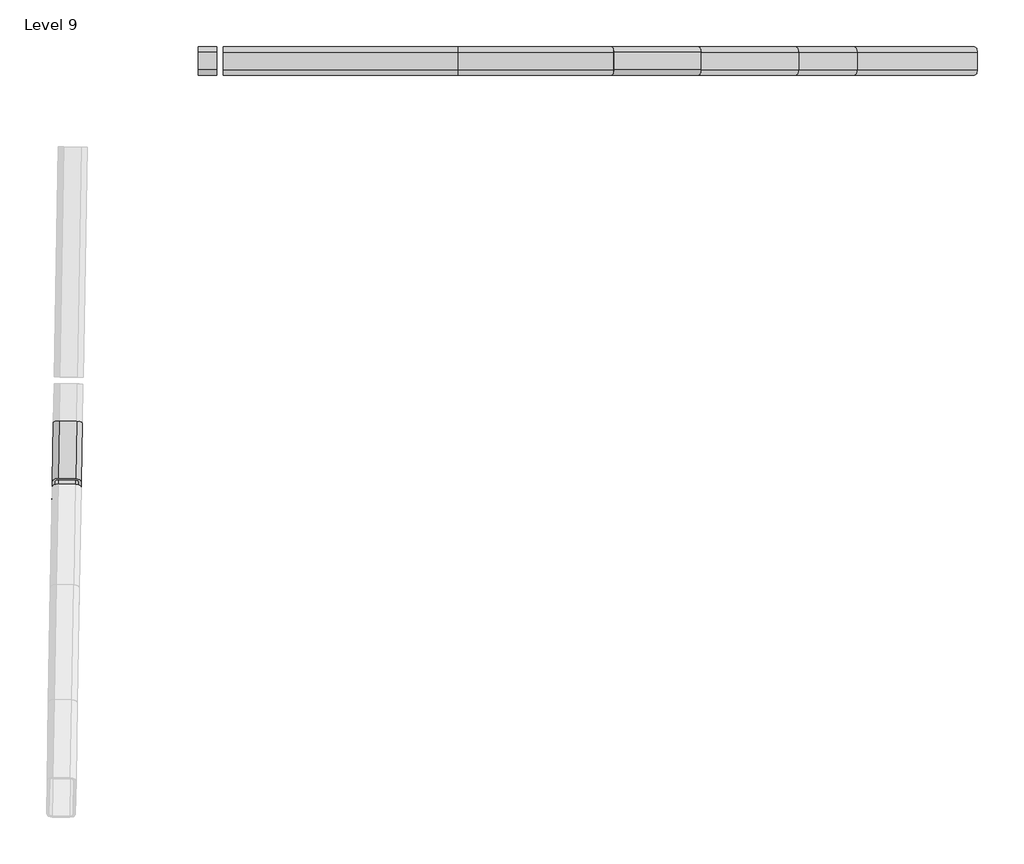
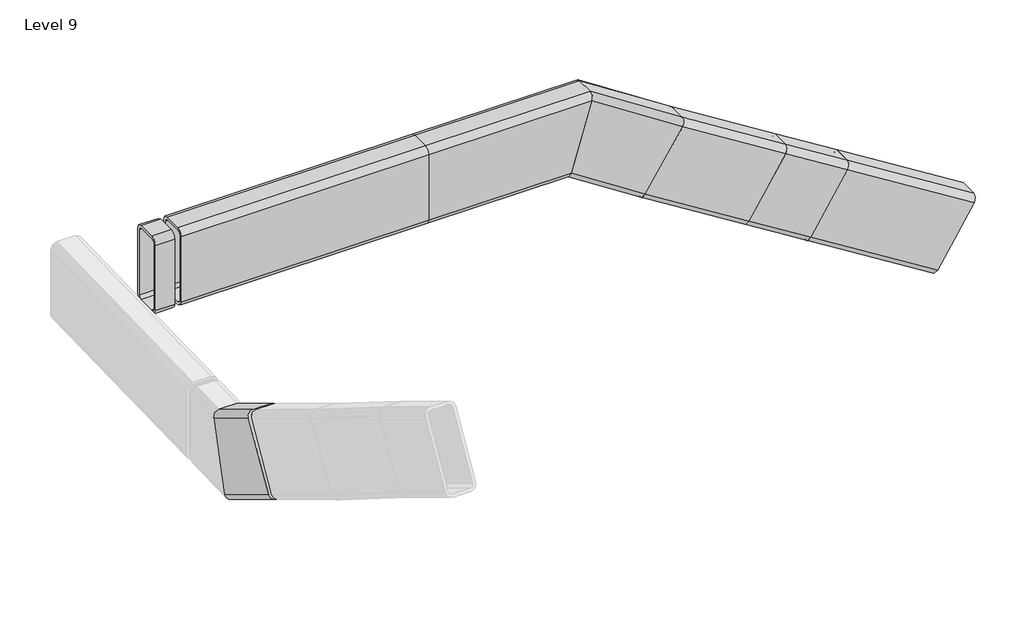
# One storey, part 2 of 2: 8 beams.
"""IFC4 building model written with IfcOpenShell, lengths in millimetres."""

from ifc_helpers import new_model, si_unit, frame, origin, place, context, project, spatial, polyline, circle_curve, ellipse_curve, transform, mapped, element, save
from ifc_brep_helpers import plane_surface, cylinder_surface, revolved_surface, advanced_brep
from components import rectangular_and_square_hollow_sections_d32af7ef, rectangular_and_square_hollow_sections_a7bb2707, rectangular_and_square_hollow_sections_bbca22d7, rectangular_and_square_hollow_sections_3be7d37e

model = new_model("IFC4")

# Units and contexts
model_context = context("Model", 3, world=origin())
ifc_project = project(units=[si_unit("LENGTHUNIT", "METRE", prefix="MILLI")], contexts=[model_context])

# Site, building, storey
site = spatial("IfcSite", under=ifc_project)
building = spatial("IfcBuilding", under=site)
storey = spatial("IfcBuildingStorey", under=building, Name="Level 9", Elevation=-895.9880884)

# Beams
placement = place(None, origin())
element("IfcBeam", 1, ObjectType="Rectangular and Square Hollow Sections : TREC160x60x6", at=placement, inside=storey, context=model_context, shape_type="AdvancedBrep", body=[
    advanced_brep(
    [(-790.2073942, 1304.750811, -564.4342809), (-791.4407066, 1234.0943761, -680.6330207), (-779.551356, 1227.6505559, -690.8858507), (-743.5568389, 1227.0222694, -690.8858507), (-731.4498449, 1233.0472319, -680.6330207), (-730.2165325, 1303.7036669, -564.4342809), (-742.1058832, 1310.147487, -554.1814509), (-778.1004002, 1310.7757735, -554.1814509), (-742.160294, 1307.0302913, -559.3078659), (-736.2156187, 1303.8083813, -564.4342809), (-737.4489311, 1233.1519463, -680.6330207), (-743.5024281, 1230.1394651, -685.7594357), (-779.4969451, 1230.7677516, -685.7594357), (-785.4416205, 1233.9896617, -680.6330207), (-784.2083081, 1304.6460966, -564.4342809), (-778.1548111, 1307.6585778, -559.3078659), (-776.0147939, 1430.2601056, -626.8578771), (-788.0716491, 1427.1075937, -638.8578771), (-740.0202769, 1429.631819, -626.857877), (-728.0807874, 1426.0604493, -638.857877), (-728.7458601, 1387.9584541, -774.8578769), (-740.8027153, 1384.8059422, -786.8578769), (-776.7972323, 1385.4342288, -786.857877), (-788.7367218, 1389.0055984, -774.857877), (-776.0441353, 1428.5791352, -632.8578771), (-740.0496183, 1427.9508486, -632.857877), (-782.0725629, 1427.0028793, -638.8578771), (-782.7376356, 1388.900884, -774.857877), (-776.7678909, 1387.1151992, -780.857877), (-740.7733738, 1386.4869125, -780.8578769), (-734.7449462, 1388.0631685, -774.8578769), (-734.0798736, 1426.1651638, -638.857877)],
    [
        (0, 1),
        (1, 2, circle_curve(frame((-779.4425343, 1233.8849472, -680.6330207), z_axis=(-0.014911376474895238, -0.8542723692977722, 0.5196117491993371), x_axis=(0.9998476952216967, -0.01745240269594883, 0.0)), 12.0)),
        (2, 3),
        (3, 4, circle_curve(frame((-743.4480173, 1233.2566607, -680.6330207), z_axis=(-0.014911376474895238, -0.8542723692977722, 0.5196117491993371), x_axis=(0.9998476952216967, -0.01745240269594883, 0.0)), 12.0)),
        (4, 5),
        (5, 6, circle_curve(frame((-742.2147049, 1303.9130957, -564.4342809), z_axis=(-0.014911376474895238, -0.8542723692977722, 0.5196117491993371), x_axis=(0.9998476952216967, -0.01745240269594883, 0.0)), 12.0)),
        (6, 7),
        (7, 0, circle_curve(frame((-778.2092219, 1304.5413822, -564.4342809), z_axis=(-0.014911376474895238, -0.8542723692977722, 0.5196117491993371), x_axis=(0.9998476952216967, -0.01745240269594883, 0.0)), 12.0)),
        (8, 9, circle_curve(frame((-742.2147049, 1303.9130957, -564.4342809), z_axis=(0.014911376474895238, 0.8542723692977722, -0.5196117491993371), x_axis=(0.9998476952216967, -0.01745240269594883, 0.0)), 6.0)),
        (9, 10),
        (10, 11, circle_curve(frame((-743.4480173, 1233.2566607, -680.6330207), z_axis=(0.014911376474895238, 0.8542723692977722, -0.5196117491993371), x_axis=(0.9998476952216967, -0.01745240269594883, 0.0)), 6.0)),
        (11, 12),
        (12, 13, circle_curve(frame((-779.4425343, 1233.8849472, -680.6330207), z_axis=(0.014911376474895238, 0.8542723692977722, -0.5196117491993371), x_axis=(0.9998476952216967, -0.01745240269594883, 0.0)), 6.0)),
        (13, 14),
        (14, 15, circle_curve(frame((-778.2092219, 1304.5413822, -564.4342809), z_axis=(0.014911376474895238, 0.8542723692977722, -0.5196117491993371), x_axis=(0.9998476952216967, -0.01745240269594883, 0.0)), 6.0)),
        (15, 8),
        (16, 17, ellipse_curve(frame((-776.0734768, 1426.8981648, -638.8578771), z_axis=(-0.016805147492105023, -0.9627662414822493, 0.2698124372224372), x_axis=(-0.004708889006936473, -0.2697713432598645, -0.9629128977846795)), 12.4621864, 12.0)),
        (17, 0),
        (7, 16),
        (18, 16),
        (6, 18),
        (19, 18, ellipse_curve(frame((-740.0789597, 1426.2698782, -638.857877), z_axis=(-0.016805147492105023, -0.9627662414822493, 0.2698124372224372), x_axis=(-0.004708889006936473, -0.2697713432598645, -0.9629128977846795)), 12.4621864, 12.0)),
        (5, 19),
        (20, 19),
        (4, 20),
        (21, 20, ellipse_curve(frame((-740.7440324, 1388.1678829, -774.8578769), z_axis=(-0.016805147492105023, -0.9627662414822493, 0.2698124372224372), x_axis=(-0.004708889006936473, -0.2697713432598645, -0.9629128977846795)), 12.4621864, 12.0)),
        (3, 21),
        (22, 21),
        (2, 22),
        (23, 22, ellipse_curve(frame((-776.7385494, 1388.7961695, -774.857877), z_axis=(-0.016805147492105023, -0.9627662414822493, 0.2698124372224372), x_axis=(-0.004708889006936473, -0.2697713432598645, -0.9629128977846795)), 12.4621864, 12.0)),
        (1, 23),
        (17, 23),
        (24, 25),
        (25, 8),
        (15, 24),
        (26, 24, ellipse_curve(frame((-776.0734768, 1426.8981648, -638.8578771), z_axis=(0.016805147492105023, 0.9627662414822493, -0.2698124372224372), x_axis=(0.004708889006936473, 0.2697713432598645, 0.9629128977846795)), 6.2310932, 6.0)),
        (14, 26),
        (27, 26),
        (13, 27),
        (28, 27, ellipse_curve(frame((-776.7385494, 1388.7961695, -774.857877), z_axis=(0.016805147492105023, 0.9627662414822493, -0.2698124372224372), x_axis=(0.004708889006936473, 0.2697713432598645, 0.9629128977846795)), 6.2310932, 6.0)),
        (12, 28),
        (29, 28),
        (11, 29),
        (30, 29, ellipse_curve(frame((-740.7440324, 1388.1678829, -774.8578769), z_axis=(0.016805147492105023, 0.9627662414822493, -0.2698124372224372), x_axis=(0.004708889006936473, 0.2697713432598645, 0.9629128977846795)), 6.2310932, 6.0)),
        (10, 30),
        (31, 30),
        (9, 31),
        (25, 31, ellipse_curve(frame((-740.0789597, 1426.2698782, -638.857877), z_axis=(0.016805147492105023, 0.9627662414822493, -0.2698124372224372), x_axis=(0.004708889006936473, 0.2697713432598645, 0.9629128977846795)), 6.2310932, 6.0)),
    ],
    [
        plane_surface(frame((-760.8286196, 1268.8990215, -622.5336508), z_axis=(-0.01491137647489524, -0.8542723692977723, 0.5196117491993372), x_axis=(0.009068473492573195, 0.5195326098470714, 0.8544024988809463))),
        cylinder_surface(frame((-775.7935789, 1442.933506, -648.6113843), z_axis=(0.014911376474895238, 0.8542723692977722, -0.5196117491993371), x_axis=(0.9998476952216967, -0.01745240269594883, 0.0)), 12.0),
        plane_surface(frame((-775.6847572, 1449.1678973, -638.3585543), z_axis=(0.009068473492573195, 0.5195326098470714, 0.8544024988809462), x_axis=(-0.014911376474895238, -0.8542723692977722, 0.5196117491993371))),
        cylinder_surface(frame((-739.7990619, 1442.3052195, -648.6113843), z_axis=(0.014911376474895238, 0.8542723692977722, -0.5196117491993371), x_axis=(0.9998476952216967, -0.01745240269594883, 0.0)), 12.0),
        plane_surface(frame((-727.8008895, 1442.0957907, -648.6113843), z_axis=(0.9998476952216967, -0.01745240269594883, 0.0), x_axis=(-0.014911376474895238, -0.8542723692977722, 0.5196117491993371))),
        cylinder_surface(frame((-741.0323743, 1371.6487846, -764.8101241), z_axis=(0.014911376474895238, 0.8542723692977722, -0.5196117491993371), x_axis=(0.9998476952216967, -0.01745240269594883, 0.0)), 12.0),
        plane_surface(frame((-741.141196, 1365.4143933, -775.0629541), z_axis=(-0.009068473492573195, -0.5195326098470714, -0.8544024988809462), x_axis=(-0.014911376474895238, -0.8542723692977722, 0.5196117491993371))),
        cylinder_surface(frame((-777.0268913, 1372.2770711, -764.8101241), z_axis=(0.014911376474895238, 0.8542723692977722, -0.5196117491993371), x_axis=(0.9998476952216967, -0.01745240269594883, 0.0)), 12.0),
        plane_surface(frame((-789.0250636, 1372.4864999, -764.8101241), z_axis=(-0.9998476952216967, 0.01745240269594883, 0.0), x_axis=(-0.014911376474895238, -0.8542723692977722, 0.5196117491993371))),
        plane_surface(frame((-739.744651, 1445.4224152, -643.4849693), z_axis=(-0.009068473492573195, -0.5195326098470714, -0.8544024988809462), x_axis=(-0.014911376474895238, -0.8542723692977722, 0.5196117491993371))),
        revolved_surface(polyline([(-772.2101357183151, 1304.4366677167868, -564.4342809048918), (-770.0493211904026, 1428.2296756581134, -639.7314621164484)]), (-775.7935789, 1442.933506, -648.6113843), (-0.014911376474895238, -0.8542723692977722, 0.5196117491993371)),
        plane_surface(frame((-781.7926651, 1443.0382204, -648.6113843), z_axis=(0.9998476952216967, -0.01745240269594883, 0.0), x_axis=(-0.014911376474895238, -0.8542723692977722, 0.5196117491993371))),
        revolved_surface(polyline([(-773.4434481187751, 1233.780232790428, -680.633020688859), (-770.7143938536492, 1390.1276804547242, -775.731461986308)]), (-777.0268913, 1372.2770711, -764.8101241), (-0.014911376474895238, -0.8542723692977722, 0.5196117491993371)),
        plane_surface(frame((-777.0813021, 1369.1598754, -769.9365391), z_axis=(0.009068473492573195, 0.5195326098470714, 0.8544024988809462), x_axis=(-0.014911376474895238, -0.8542723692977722, 0.5196117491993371))),
        revolved_surface(polyline([(-737.4489311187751, 1233.151946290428, -680.6330206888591), (-734.7198768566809, 1389.499393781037, -775.7314618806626)]), (-741.0323743, 1371.6487846, -764.8101241), (-0.014911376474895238, -0.8542723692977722, 0.5196117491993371)),
        plane_surface(frame((-735.0332881, 1371.5440702, -764.8101241), z_axis=(-0.9998476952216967, 0.01745240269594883, 0.0), x_axis=(-0.014911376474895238, -0.8542723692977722, 0.5196117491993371))),
        revolved_surface(polyline([(-736.2156187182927, 1303.8083812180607, -564.4342809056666), (-734.054804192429, 1427.6013890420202, -639.7314620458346)]), (-739.7990619, 1442.3052195, -648.6113843), (-0.014911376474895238, -0.8542723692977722, 0.5196117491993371)),
        plane_surface(frame((-758.0175342, 1429.9459624, -626.8578766), z_axis=(0.016805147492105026, 0.9627662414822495, -0.26981243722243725), x_axis=(0.9998587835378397, -0.016181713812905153, 0.0045348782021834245))),
    ],
    [
        (0, [[1, 2, 3, 4, 5, 6, 7, 8], [9, 10, 11, 12, 13, 14, 15, 16]]),
        (1, [[17, 18, -8, 19]]),
        (2, [[20, -19, -7, 21]]),
        (3, [[22, -21, -6, 23]]),
        (4, [[24, -23, -5, 25]]),
        (5, [[26, -25, -4, 27]]),
        (6, [[28, -27, -3, 29]]),
        (7, [[30, -29, -2, 31]]),
        (8, [[32, -31, -1, -18]]),
        (9, [[33, 34, -16, 35]]),
        (10, [[36, -35, -15, 37]]),
        (11, [[38, -37, -14, 39]]),
        (12, [[40, -39, -13, 41]]),
        (13, [[42, -41, -12, 43]]),
        (14, [[44, -43, -11, 45]]),
        (15, [[46, -45, -10, 47]]),
        (16, [[48, -47, -9, -34]]),
        (17, [[-17, -20, -22, -24, -26, -28, -30, -32], [-33, -36, -38, -40, -42, -44, -46, -48]]),
    ],
),
])
element("IfcBeam", 2, ObjectType="Rectangular and Square Hollow Sections : TREC160x60x6", at=placement, inside=storey, context=model_context, shape_type="AdvancedBrep", body=[
    advanced_brep(
    [(51.2492344, 2207.1252219, -822.0), (51.2492344, 2207.1252219, -958.0), (51.2492344, 2195.1252219, -970.0), (51.2492344, 2159.1252219, -970.0), (51.2492344, 2147.1252219, -958.0), (51.2492344, 2147.1252219, -822.0), (51.2492344, 2159.1252219, -810.0), (51.2492344, 2195.1252219, -810.0), (51.2492344, 2159.1252219, -816.0), (51.2492344, 2153.1252219, -822.0), (51.2492344, 2153.1252219, -958.0), (51.2492344, 2159.1252219, -964.0), (51.2492344, 2195.1252219, -964.0), (51.2492344, 2201.1252219, -958.0), (51.2492344, 2201.1252219, -822.0), (51.2492344, 2195.1252219, -816.0), (375.0083467, 2195.1252219, -810.0), (371.4444798, 2207.1252219, -822.0), (375.0083467, 2159.1252219, -810.0), (371.4444798, 2147.1252219, -822.0), (331.053989, 2147.1252219, -958.0), (327.4901222, 2159.1252219, -970.0), (327.4901222, 2195.1252219, -970.0), (331.053989, 2207.1252219, -958.0), (373.2264132, 2195.1252219, -816.0), (373.2264132, 2159.1252219, -816.0), (371.4444798, 2201.1252219, -822.0), (331.053989, 2201.1252219, -958.0), (329.2720556, 2195.1252219, -964.0), (329.2720556, 2159.1252219, -964.0), (331.053989, 2153.1252219, -958.0), (371.4444798, 2153.1252219, -822.0)],
    [
        (0, 1),
        (1, 2, circle_curve(frame((51.2492344, 2195.1252219, -958.0), z_axis=(-1.0, 0.0, 0.0), x_axis=(0.0, -1.0, 0.0)), 12.0)),
        (2, 3),
        (3, 4, circle_curve(frame((51.2492344, 2159.1252219, -958.0), z_axis=(-1.0, 0.0, 0.0), x_axis=(0.0, -1.0, 0.0)), 12.0)),
        (4, 5),
        (5, 6, circle_curve(frame((51.2492344, 2159.1252219, -822.0), z_axis=(-1.0, 0.0, 0.0), x_axis=(0.0, -1.0, 0.0)), 12.0)),
        (6, 7),
        (7, 0, circle_curve(frame((51.2492344, 2195.1252219, -822.0), z_axis=(-1.0, 0.0, 0.0), x_axis=(0.0, -1.0, 0.0)), 12.0)),
        (8, 9, circle_curve(frame((51.2492344, 2159.1252219, -822.0), z_axis=(1.0, 0.0, 0.0), x_axis=(0.0, -1.0, 0.0)), 6.0)),
        (9, 10),
        (10, 11, circle_curve(frame((51.2492344, 2159.1252219, -958.0), z_axis=(1.0, 0.0, 0.0), x_axis=(0.0, -1.0, 0.0)), 6.0)),
        (11, 12),
        (12, 13, circle_curve(frame((51.2492344, 2195.1252219, -958.0), z_axis=(1.0, 0.0, 0.0), x_axis=(0.0, -1.0, 0.0)), 6.0)),
        (13, 14),
        (14, 15, circle_curve(frame((51.2492344, 2195.1252219, -822.0), z_axis=(1.0, 0.0, 0.0), x_axis=(0.0, -1.0, 0.0)), 6.0)),
        (15, 8),
        (16, 17, ellipse_curve(frame((371.4444798, 2195.1252219, -822.0), z_axis=(-0.9586170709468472, 0.0, 0.2846986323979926), x_axis=(0.2846986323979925, 0.0, 0.9586170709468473)), 12.5180329, 12.0)),
        (17, 0),
        (7, 16),
        (18, 16),
        (6, 18),
        (19, 18, ellipse_curve(frame((371.4444798, 2159.1252219, -822.0), z_axis=(-0.9586170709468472, 0.0, 0.2846986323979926), x_axis=(0.2846986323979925, 0.0, 0.9586170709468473)), 12.5180329, 12.0)),
        (5, 19),
        (20, 19),
        (4, 20),
        (21, 20, ellipse_curve(frame((331.053989, 2159.1252219, -958.0), z_axis=(-0.9586170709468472, 0.0, 0.2846986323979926), x_axis=(0.2846986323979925, 0.0, 0.9586170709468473)), 12.5180329, 12.0)),
        (3, 21),
        (22, 21),
        (2, 22),
        (23, 22, ellipse_curve(frame((331.053989, 2195.1252219, -958.0), z_axis=(-0.9586170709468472, 0.0, 0.2846986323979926), x_axis=(0.2846986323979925, 0.0, 0.9586170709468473)), 12.5180329, 12.0)),
        (1, 23),
        (17, 23),
        (24, 25),
        (25, 8),
        (15, 24),
        (26, 24, ellipse_curve(frame((371.4444798, 2195.1252219, -822.0), z_axis=(0.9586170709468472, 0.0, -0.2846986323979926), x_axis=(-0.2846986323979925, 0.0, -0.9586170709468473)), 6.2590164, 6.0)),
        (14, 26),
        (27, 26),
        (13, 27),
        (28, 27, ellipse_curve(frame((331.053989, 2195.1252219, -958.0), z_axis=(0.9586170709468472, 0.0, -0.2846986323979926), x_axis=(-0.2846986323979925, 0.0, -0.9586170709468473)), 6.2590164, 6.0)),
        (12, 28),
        (29, 28),
        (11, 29),
        (30, 29, ellipse_curve(frame((331.053989, 2159.1252219, -958.0), z_axis=(0.9586170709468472, 0.0, -0.2846986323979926), x_axis=(-0.2846986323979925, 0.0, -0.9586170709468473)), 6.2590164, 6.0)),
        (10, 30),
        (31, 30),
        (9, 31),
        (25, 31, ellipse_curve(frame((371.4444798, 2159.1252219, -822.0), z_axis=(0.9586170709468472, 0.0, -0.2846986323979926), x_axis=(-0.2846986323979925, 0.0, -0.9586170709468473)), 6.2590164, 6.0)),
    ],
    [
        plane_surface(frame((51.2492344, 2177.1252219, -890.0), z_axis=(-1.0, 0.0, 0.0), x_axis=(0.0, 0.0, 1.0))),
        cylinder_surface(frame((351.2492344, 2195.1252219, -822.0), z_axis=(1.0, 0.0, 0.0), x_axis=(0.0, -1.0, 0.0)), 12.0),
        plane_surface(frame((351.2492344, 2195.1252219, -810.0), z_axis=(0.0, 0.0, 1.0), x_axis=(-1.0, 0.0, 0.0))),
        cylinder_surface(frame((351.2492344, 2159.1252219, -822.0), z_axis=(1.0, 0.0, 0.0), x_axis=(0.0, -1.0, 0.0)), 12.0),
        plane_surface(frame((351.2492344, 2147.1252219, -822.0), z_axis=(0.0, -1.0, 0.0), x_axis=(-1.0, 0.0, 0.0))),
        cylinder_surface(frame((351.2492344, 2159.1252219, -958.0), z_axis=(1.0, 0.0, 0.0), x_axis=(0.0, -1.0, 0.0)), 12.0),
        plane_surface(frame((351.2492344, 2159.1252219, -970.0), z_axis=(0.0, 0.0, -1.0), x_axis=(-1.0, 0.0, 0.0))),
        cylinder_surface(frame((351.2492344, 2195.1252219, -958.0), z_axis=(1.0, 0.0, 0.0), x_axis=(0.0, -1.0, 0.0)), 12.0),
        plane_surface(frame((351.2492344, 2207.1252219, -958.0), z_axis=(0.0, 1.0, 0.0), x_axis=(-1.0, 0.0, 0.0))),
        plane_surface(frame((351.2492344, 2159.1252219, -816.0), z_axis=(0.0, 0.0, -1.0), x_axis=(-1.0, 0.0, 0.0))),
        revolved_surface(polyline([(51.24923439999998, 2189.1252219, -822.0), (373.2264132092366, 2189.1252219, -822.0)]), (351.2492344, 2195.1252219, -822.0), (-1.0, 0.0, 0.0)),
        plane_surface(frame((351.2492344, 2201.1252219, -822.0), z_axis=(0.0, -1.0, 0.0), x_axis=(-1.0, 0.0, 0.0))),
        revolved_surface(polyline([(51.24923439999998, 2189.1252219, -958.0), (332.8359224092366, 2189.1252219, -958.0)]), (351.2492344, 2195.1252219, -958.0), (-1.0, 0.0, 0.0)),
        plane_surface(frame((351.2492344, 2195.1252219, -964.0), z_axis=(0.0, 0.0, 1.0), x_axis=(-1.0, 0.0, 0.0))),
        revolved_surface(polyline([(51.24923439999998, 2153.1252219, -958.0), (332.8359224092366, 2153.1252219, -958.0)]), (351.2492344, 2159.1252219, -958.0), (-1.0, 0.0, 0.0)),
        plane_surface(frame((351.2492344, 2153.1252219, -958.0), z_axis=(0.0, 1.0, 0.0), x_axis=(-1.0, 0.0, 0.0))),
        revolved_surface(polyline([(51.24923439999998, 2153.1252219, -822.0), (373.2264132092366, 2153.1252219, -822.0)]), (351.2492344, 2159.1252219, -822.0), (-1.0, 0.0, 0.0)),
        plane_surface(frame((327.4901222, 2177.1252219, -970.0), z_axis=(0.9586170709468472, 0.0, -0.2846986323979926), x_axis=(0.2846986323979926, 0.0, 0.9586170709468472))),
    ],
    [
        (0, [[1, 2, 3, 4, 5, 6, 7, 8], [9, 10, 11, 12, 13, 14, 15, 16]]),
        (1, [[17, 18, -8, 19]]),
        (2, [[20, -19, -7, 21]]),
        (3, [[22, -21, -6, 23]]),
        (4, [[24, -23, -5, 25]]),
        (5, [[26, -25, -4, 27]]),
        (6, [[28, -27, -3, 29]]),
        (7, [[30, -29, -2, 31]]),
        (8, [[32, -31, -1, -18]]),
        (9, [[33, 34, -16, 35]]),
        (10, [[36, -35, -15, 37]]),
        (11, [[38, -37, -14, 39]]),
        (12, [[40, -39, -13, 41]]),
        (13, [[42, -41, -12, 43]]),
        (14, [[44, -43, -11, 45]]),
        (15, [[46, -45, -10, 47]]),
        (16, [[48, -47, -9, -34]]),
        (17, [[-17, -20, -22, -24, -26, -28, -30, -32], [-33, -36, -38, -40, -42, -44, -46, -48]]),
    ],
),
])
element("IfcBeam", 3, ObjectType="Rectangular and Square Hollow Sections : TREC160x60x6", at=placement, inside=storey, context=model_context, shape_type="AdvancedBrep", body=[
    advanced_brep(
    [(752.6588627, 2207.1252219, -1064.959204), (759.0178939, 2195.1252219, -1054.7826268), (759.0178939, 2159.1252219, -1054.7826268), (752.6588627, 2147.1252219, -1064.959204), (680.5898427, 2147.1252219, -1180.293745), (674.2308115, 2159.1252219, -1190.4703221), (674.2308115, 2195.1252219, -1190.4703221), (680.5898427, 2207.1252219, -1180.293745), (755.8383783, 2159.1252219, -1059.8709154), (755.8383783, 2195.1252219, -1059.8709154), (752.6588627, 2201.1252219, -1064.959204), (680.5898427, 2201.1252219, -1180.293745), (677.4103271, 2195.1252219, -1185.3820335), (677.4103271, 2159.1252219, -1185.3820335), (680.5898427, 2153.1252219, -1180.293745), (752.6588627, 2153.1252219, -1064.959204), (550.2405875, 2207.1252219, -938.4742271), (556.6956818, 2195.1252219, -928.3576769), (556.6956818, 2159.1252219, -928.3576769), (550.2405875, 2147.1252219, -938.4742271), (477.0828514, 2147.1252219, -1053.1284629), (470.627757, 2159.1252219, -1063.2450131), (470.627757, 2195.1252219, -1063.2450131), (477.0828514, 2207.1252219, -1053.1284629), (553.4681346, 2159.1252219, -933.415952), (553.4681346, 2195.1252219, -933.415952), (550.2405875, 2201.1252219, -938.4742271), (477.0828514, 2201.1252219, -1053.1284629), (473.8553042, 2195.1252219, -1058.186738), (473.8553042, 2159.1252219, -1058.186738), (477.0828514, 2153.1252219, -1053.1284629), (550.2405875, 2153.1252219, -938.4742271)],
    [
        (0, 1, circle_curve(frame((752.6588627, 2195.1252219, -1064.959204), z_axis=(0.8480480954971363, 0.0, -0.5299192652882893), x_axis=(0.0, -0.9999999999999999, 0.0)), 12.0)),
        (1, 2),
        (2, 3, circle_curve(frame((752.6588627, 2159.1252219, -1064.959204), z_axis=(0.8480480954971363, 0.0, -0.5299192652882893), x_axis=(0.0, -0.9999999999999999, 0.0)), 12.0)),
        (3, 4),
        (4, 5, circle_curve(frame((680.5898427, 2159.1252219, -1180.293745), z_axis=(0.8480480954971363, 0.0, -0.5299192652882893), x_axis=(0.0, -0.9999999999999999, 0.0)), 12.0)),
        (5, 6),
        (6, 7, circle_curve(frame((680.5898427, 2195.1252219, -1180.293745), z_axis=(0.8480480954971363, 0.0, -0.5299192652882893), x_axis=(0.0, -0.9999999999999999, 0.0)), 12.0)),
        (7, 0),
        (8, 9),
        (9, 10, circle_curve(frame((752.6588627, 2195.1252219, -1064.959204), z_axis=(-0.8480480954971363, 0.0, 0.5299192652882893), x_axis=(0.0, -0.9999999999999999, 0.0)), 6.0)),
        (10, 11),
        (11, 12, circle_curve(frame((680.5898427, 2195.1252219, -1180.293745), z_axis=(-0.8480480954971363, 0.0, 0.5299192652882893), x_axis=(0.0, -0.9999999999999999, 0.0)), 6.0)),
        (12, 13),
        (13, 14, circle_curve(frame((680.5898427, 2159.1252219, -1180.293745), z_axis=(-0.8480480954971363, 0.0, 0.5299192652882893), x_axis=(0.0, -0.9999999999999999, 0.0)), 6.0)),
        (14, 15),
        (15, 8, circle_curve(frame((752.6588627, 2159.1252219, -1064.959204), z_axis=(-0.8480480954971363, 0.0, 0.5299192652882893), x_axis=(0.0, -0.9999999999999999, 0.0)), 6.0)),
        (0, 16),
        (16, 17, ellipse_curve(frame((550.2405875, 2195.1252219, -938.4742271), z_axis=(0.8430082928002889, 0.0, -0.5379005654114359), x_axis=(0.5379005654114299, 0.0, 0.8430082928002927)), 12.0005346, 12.0)),
        (17, 1),
        (17, 18),
        (18, 2),
        (18, 19, ellipse_curve(frame((550.2405875, 2159.1252219, -938.4742271), z_axis=(0.8430082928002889, 0.0, -0.5379005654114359), x_axis=(0.5379005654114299, 0.0, 0.8430082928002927)), 12.0005346, 12.0)),
        (19, 3),
        (19, 20),
        (20, 4),
        (20, 21, ellipse_curve(frame((477.0828514, 2159.1252219, -1053.1284629), z_axis=(0.8430082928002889, 0.0, -0.5379005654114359), x_axis=(0.5379005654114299, 0.0, 0.8430082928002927)), 12.0005346, 12.0)),
        (21, 5),
        (21, 22),
        (22, 6),
        (22, 23, ellipse_curve(frame((477.0828514, 2195.1252219, -1053.1284629), z_axis=(0.8430082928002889, 0.0, -0.5379005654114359), x_axis=(0.5379005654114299, 0.0, 0.8430082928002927)), 12.0005346, 12.0)),
        (23, 7),
        (23, 16),
        (8, 24),
        (24, 25),
        (25, 9),
        (25, 26, ellipse_curve(frame((550.2405875, 2195.1252219, -938.4742271), z_axis=(-0.8430082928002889, 0.0, 0.5379005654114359), x_axis=(-0.5379005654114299, 0.0, -0.8430082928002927)), 6.0002673, 6.0)),
        (26, 10),
        (26, 27),
        (27, 11),
        (27, 28, ellipse_curve(frame((477.0828514, 2195.1252219, -1053.1284629), z_axis=(-0.8430082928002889, 0.0, 0.5379005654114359), x_axis=(-0.5379005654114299, 0.0, -0.8430082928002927)), 6.0002673, 6.0)),
        (28, 12),
        (28, 29),
        (29, 13),
        (29, 30, ellipse_curve(frame((477.0828514, 2159.1252219, -1053.1284629), z_axis=(-0.8430082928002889, 0.0, 0.5379005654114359), x_axis=(-0.5379005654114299, 0.0, -0.8430082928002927)), 6.0002673, 6.0)),
        (30, 14),
        (30, 31),
        (31, 15),
        (31, 24, ellipse_curve(frame((550.2405875, 2159.1252219, -938.4742271), z_axis=(-0.8430082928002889, 0.0, 0.5379005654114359), x_axis=(-0.5379005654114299, 0.0, -0.8430082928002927)), 6.0002673, 6.0)),
    ],
    [
        plane_surface(frame((716.6243527, 2177.1252219, -1122.6264745), z_axis=(0.8480480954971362, 0.0, -0.5299192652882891), x_axis=(0.5299192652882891, 0.0, 0.8480480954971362))),
        cylinder_surface(frame((752.6588627, 2195.1252219, -1064.959204), z_axis=(0.8480480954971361, 0.0, -0.5299192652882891), x_axis=(0.0, -0.9999999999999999, 0.0)), 12.0),
        plane_surface(frame((759.0178939, 2195.1252219, -1054.7826268), z_axis=(0.5299192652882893, 0.0, 0.8480480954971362), x_axis=(-0.8480480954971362, 0.0, 0.5299192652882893))),
        cylinder_surface(frame((752.6588627, 2159.1252219, -1064.959204), z_axis=(0.8480480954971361, 0.0, -0.5299192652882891), x_axis=(0.0, -0.9999999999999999, 0.0)), 12.0),
        plane_surface(frame((752.6588627, 2147.1252219, -1064.959204), z_axis=(0.0, -1.0, 0.0), x_axis=(-0.8480480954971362, 0.0, 0.5299192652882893))),
        cylinder_surface(frame((680.5898427, 2159.1252219, -1180.293745), z_axis=(0.8480480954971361, 0.0, -0.5299192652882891), x_axis=(0.0, -0.9999999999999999, 0.0)), 12.0),
        plane_surface(frame((674.2308115, 2159.1252219, -1190.4703221), z_axis=(-0.5299192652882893, 0.0, -0.8480480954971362), x_axis=(-0.8480480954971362, 0.0, 0.5299192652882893))),
        cylinder_surface(frame((680.5898427, 2195.1252219, -1180.293745), z_axis=(0.8480480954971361, 0.0, -0.5299192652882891), x_axis=(0.0, -0.9999999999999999, 0.0)), 12.0),
        plane_surface(frame((680.5898427, 2207.1252219, -1180.293745), z_axis=(0.0, 1.0, 0.0), x_axis=(-0.8480480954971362, 0.0, 0.5299192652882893))),
        plane_surface(frame((755.8383783, 2159.1252219, -1059.8709154), z_axis=(-0.5299192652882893, 0.0, -0.8480480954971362), x_axis=(-0.8480480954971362, 0.0, 0.5299192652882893))),
        revolved_surface(polyline([(550.1925558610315, 2189.1252219, -938.4442137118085), (752.6588627, 2189.1252219, -1064.959204)]), (752.6588627, 2195.1252219, -1064.959204), (-0.8480480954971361, 0.0, 0.5299192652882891)),
        plane_surface(frame((752.6588627, 2201.1252219, -1064.959204), z_axis=(0.0, -1.0, 0.0), x_axis=(-0.8480480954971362, 0.0, 0.5299192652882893))),
        revolved_surface(polyline([(477.0348198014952, 2189.1252219, -1053.0984494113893), (680.5898427, 2189.1252219, -1180.293745)]), (680.5898427, 2195.1252219, -1180.293745), (-0.8480480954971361, 0.0, 0.5299192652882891)),
        plane_surface(frame((677.4103271, 2195.1252219, -1185.3820335), z_axis=(0.5299192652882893, 0.0, 0.8480480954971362), x_axis=(-0.8480480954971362, 0.0, 0.5299192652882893))),
        revolved_surface(polyline([(477.0348198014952, 2153.1252219, -1053.0984494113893), (680.5898427, 2153.1252219, -1180.293745)]), (680.5898427, 2159.1252219, -1180.293745), (-0.8480480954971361, 0.0, 0.5299192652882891)),
        plane_surface(frame((680.5898427, 2153.1252219, -1180.293745), z_axis=(0.0, 1.0, 0.0), x_axis=(-0.8480480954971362, 0.0, 0.5299192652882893))),
        revolved_surface(polyline([(550.1925558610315, 2153.1252219, -938.4442137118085), (752.6588627, 2153.1252219, -1064.959204)]), (752.6588627, 2159.1252219, -1064.959204), (-0.8480480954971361, 0.0, 0.5299192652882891)),
        plane_surface(frame((470.627757, 2177.1252219, -1063.2450131), z_axis=(-0.8430082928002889, 0.0, 0.5379005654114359), x_axis=(0.5379005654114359, 0.0, 0.8430082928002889))),
    ],
    [
        (0, [[1, 2, 3, 4, 5, 6, 7, 8], [9, 10, 11, 12, 13, 14, 15, 16]]),
        (1, [[-1, 17, 18, 19]]),
        (2, [[-2, -19, 20, 21]]),
        (3, [[-3, -21, 22, 23]]),
        (4, [[-4, -23, 24, 25]]),
        (5, [[-5, -25, 26, 27]]),
        (6, [[-6, -27, 28, 29]]),
        (7, [[-7, -29, 30, 31]]),
        (8, [[-8, -31, 32, -17]]),
        (9, [[-9, 33, 34, 35]]),
        (10, [[-10, -35, 36, 37]]),
        (11, [[-11, -37, 38, 39]]),
        (12, [[-12, -39, 40, 41]]),
        (13, [[-13, -41, 42, 43]]),
        (14, [[-14, -43, 44, 45]]),
        (15, [[-15, -45, 46, 47]]),
        (16, [[-16, -47, 48, -33]]),
        (17, [[-32, -30, -28, -26, -24, -22, -20, -18], [-48, -46, -44, -42, -40, -38, -36, -34]]),
    ],
),
])
element("IfcBeam", 4, ObjectType="Rectangular and Square Hollow Sections : TREC160x60x6", at=placement, inside=storey, context=model_context, shape_type="AdvancedBrep", body=[
    advanced_brep(
    [(375.0083467, 2159.1252219, -810.0), (371.4444798, 2147.1252219, -822.0), (550.2405875, 2147.1252219, -938.4742271), (556.6956818, 2159.1252219, -928.3576769), (375.0083467, 2195.1252219, -810.0), (556.6956818, 2195.1252219, -928.3576769), (371.4444798, 2207.1252219, -822.0), (550.2405875, 2207.1252219, -938.4742271), (331.053989, 2207.1252219, -958.0), (477.0828514, 2207.1252219, -1053.1284629), (327.4901222, 2195.1252219, -970.0), (470.627757, 2195.1252219, -1063.2450131), (327.4901222, 2159.1252219, -970.0), (470.627757, 2159.1252219, -1063.2450131), (331.053989, 2147.1252219, -958.0), (477.0828514, 2147.1252219, -1053.1284629), (373.2264132, 2159.1252219, -816.0), (373.2264132, 2195.1252219, -816.0), (553.4681346, 2195.1252219, -933.415952), (553.4681346, 2159.1252219, -933.415952), (371.4444798, 2153.1252219, -822.0), (550.2405875, 2153.1252219, -938.4742271), (331.053989, 2153.1252219, -958.0), (477.0828514, 2153.1252219, -1053.1284629), (329.2720556, 2159.1252219, -964.0), (473.8553042, 2159.1252219, -1058.186738), (329.2720556, 2195.1252219, -964.0), (473.8553042, 2195.1252219, -1058.186738), (331.053989, 2201.1252219, -958.0), (477.0828514, 2201.1252219, -1053.1284629), (371.4444798, 2201.1252219, -822.0), (550.2405875, 2201.1252219, -938.4742271)],
    [
        (0, 1, ellipse_curve(frame((371.4444798, 2159.1252219, -822.0), z_axis=(0.9586170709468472, 0.0, -0.2846986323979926), x_axis=(0.28469863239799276, 0.0, 0.958617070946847)), 12.5180329, 12.0)),
        (1, 2),
        (2, 3, ellipse_curve(frame((550.2405875, 2159.1252219, -938.4742271), z_axis=(-0.8430082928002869, 0.0, 0.5379005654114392), x_axis=(0.537900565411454, 0.0, 0.8430082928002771)), 12.0005346, 12.0)),
        (3, 0),
        (4, 0),
        (3, 5),
        (5, 4),
        (6, 4, ellipse_curve(frame((371.4444798, 2195.1252219, -822.0), z_axis=(0.9586170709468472, 0.0, -0.2846986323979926), x_axis=(0.28469863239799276, 0.0, 0.958617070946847)), 12.5180329, 12.0)),
        (5, 7, ellipse_curve(frame((550.2405875, 2195.1252219, -938.4742271), z_axis=(-0.8430082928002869, 0.0, 0.5379005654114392), x_axis=(0.537900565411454, 0.0, 0.8430082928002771)), 12.0005346, 12.0)),
        (7, 6),
        (8, 6),
        (7, 9),
        (9, 8),
        (10, 8, ellipse_curve(frame((331.053989, 2195.1252219, -958.0), z_axis=(0.9586170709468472, 0.0, -0.2846986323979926), x_axis=(0.28469863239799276, 0.0, 0.958617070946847)), 12.5180329, 12.0)),
        (9, 11, ellipse_curve(frame((477.0828514, 2195.1252219, -1053.1284629), z_axis=(-0.8430082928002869, 0.0, 0.5379005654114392), x_axis=(0.537900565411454, 0.0, 0.8430082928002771)), 12.0005346, 12.0)),
        (11, 10),
        (12, 10),
        (11, 13),
        (13, 12),
        (14, 12, ellipse_curve(frame((331.053989, 2159.1252219, -958.0), z_axis=(0.9586170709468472, 0.0, -0.2846986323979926), x_axis=(0.28469863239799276, 0.0, 0.958617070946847)), 12.5180329, 12.0)),
        (13, 15, ellipse_curve(frame((477.0828514, 2159.1252219, -1053.1284629), z_axis=(-0.8430082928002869, 0.0, 0.5379005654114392), x_axis=(0.537900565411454, 0.0, 0.8430082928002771)), 12.0005346, 12.0)),
        (15, 14),
        (1, 14),
        (15, 2),
        (16, 17),
        (17, 18),
        (18, 19),
        (19, 16),
        (20, 16, ellipse_curve(frame((371.4444798, 2159.1252219, -822.0), z_axis=(-0.9586170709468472, 0.0, 0.2846986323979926), x_axis=(-0.28469863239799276, 0.0, -0.958617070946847)), 6.2590164, 6.0)),
        (19, 21, ellipse_curve(frame((550.2405875, 2159.1252219, -938.4742271), z_axis=(0.8430082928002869, 0.0, -0.5379005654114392), x_axis=(-0.537900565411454, 0.0, -0.8430082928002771)), 6.0002673, 6.0)),
        (21, 20),
        (22, 20),
        (21, 23),
        (23, 22),
        (24, 22, ellipse_curve(frame((331.053989, 2159.1252219, -958.0), z_axis=(-0.9586170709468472, 0.0, 0.2846986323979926), x_axis=(-0.28469863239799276, 0.0, -0.958617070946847)), 6.2590164, 6.0)),
        (23, 25, ellipse_curve(frame((477.0828514, 2159.1252219, -1053.1284629), z_axis=(0.8430082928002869, 0.0, -0.5379005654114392), x_axis=(-0.537900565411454, 0.0, -0.8430082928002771)), 6.0002673, 6.0)),
        (25, 24),
        (26, 24),
        (25, 27),
        (27, 26),
        (28, 26, ellipse_curve(frame((331.053989, 2195.1252219, -958.0), z_axis=(-0.9586170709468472, 0.0, 0.2846986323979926), x_axis=(-0.28469863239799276, 0.0, -0.958617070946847)), 6.2590164, 6.0)),
        (27, 29, ellipse_curve(frame((477.0828514, 2195.1252219, -1053.1284629), z_axis=(0.8430082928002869, 0.0, -0.5379005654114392), x_axis=(-0.537900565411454, 0.0, -0.8430082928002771)), 6.0002673, 6.0)),
        (29, 28),
        (30, 28),
        (29, 31),
        (31, 30),
        (17, 30, ellipse_curve(frame((371.4444798, 2195.1252219, -822.0), z_axis=(-0.9586170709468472, 0.0, 0.2846986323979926), x_axis=(-0.28469863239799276, 0.0, -0.958617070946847)), 6.2590164, 6.0)),
        (31, 18, ellipse_curve(frame((550.2405875, 2195.1252219, -938.4742271), z_axis=(0.8430082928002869, 0.0, -0.5379005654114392), x_axis=(-0.537900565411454, 0.0, -0.8430082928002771)), 6.0002673, 6.0)),
    ],
    [
        cylinder_surface(frame((388.7154738, 2159.1252219, -833.2509478), z_axis=(-0.8378933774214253, 0.0, 0.5458339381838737), x_axis=(0.0, 1.0, 0.0)), 12.0),
        plane_surface(frame((395.265481, 2159.1252219, -823.1962273), z_axis=(0.5458339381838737, 0.0, 0.8378933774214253), x_axis=(0.8378933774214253, 0.0, -0.5458339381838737))),
        cylinder_surface(frame((388.7154738, 2195.1252219, -833.2509478), z_axis=(-0.8378933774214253, 0.0, 0.5458339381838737), x_axis=(0.0, 1.0, 0.0)), 12.0),
        plane_surface(frame((388.7154738, 2207.1252219, -833.2509478), z_axis=(0.0, 1.0, 0.0), x_axis=(0.8378933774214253, 0.0, -0.5458339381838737))),
        cylinder_surface(frame((314.4820582, 2195.1252219, -947.2044471), z_axis=(-0.8378933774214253, 0.0, 0.5458339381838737), x_axis=(0.0, 1.0, 0.0)), 12.0),
        plane_surface(frame((307.9320509, 2195.1252219, -957.2591677), z_axis=(-0.5458339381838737, 0.0, -0.8378933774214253), x_axis=(0.8378933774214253, 0.0, -0.5458339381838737))),
        cylinder_surface(frame((314.4820582, 2159.1252219, -947.2044471), z_axis=(-0.8378933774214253, 0.0, 0.5458339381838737), x_axis=(0.0, 1.0, 0.0)), 12.0),
        plane_surface(frame((314.4820582, 2147.1252219, -947.2044471), z_axis=(0.0, -1.0, 0.0), x_axis=(0.8378933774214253, 0.0, -0.5458339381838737))),
        plane_surface(frame((391.9904774, 2195.1252219, -828.2235875), z_axis=(-0.5458339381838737, 0.0, -0.8378933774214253), x_axis=(0.8378933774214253, 0.0, -0.5458339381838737))),
        revolved_surface(polyline([(550.2880439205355, 2165.1252219, -938.5051419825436), (369.9514095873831, 2165.1252219, -821.0273602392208)]), (388.7154738, 2159.1252219, -833.2509478), (0.8378933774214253, 0.0, -0.5458339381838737)),
        plane_surface(frame((388.7154738, 2153.1252219, -833.2509478), z_axis=(0.0, 1.0, 0.0), x_axis=(0.8378933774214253, 0.0, -0.5458339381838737))),
        revolved_surface(polyline([(477.1303078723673, 2165.1252219, -1053.1593777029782), (329.56091881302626, 2165.1252219, -957.0273602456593)]), (314.4820582, 2159.1252219, -947.2044471), (0.8378933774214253, 0.0, -0.5458339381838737)),
        plane_surface(frame((311.2070546, 2159.1252219, -952.2318074), z_axis=(0.5458339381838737, 0.0, 0.8378933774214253), x_axis=(0.8378933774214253, 0.0, -0.5458339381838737))),
        revolved_surface(polyline([(477.1303078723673, 2201.1252219, -1053.1593777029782), (329.56091881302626, 2201.1252219, -957.0273602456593)]), (314.4820582, 2195.1252219, -947.2044471), (0.8378933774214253, 0.0, -0.5458339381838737)),
        plane_surface(frame((314.4820582, 2201.1252219, -947.2044471), z_axis=(0.0, -1.0, 0.0), x_axis=(0.8378933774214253, 0.0, -0.5458339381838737))),
        revolved_surface(polyline([(550.2880439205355, 2201.1252219, -938.5051419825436), (369.9514095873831, 2201.1252219, -821.0273602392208)]), (388.7154738, 2195.1252219, -833.2509478), (0.8378933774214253, 0.0, -0.5458339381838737)),
        plane_surface(frame((327.4901222, 2177.1252219, -970.0), z_axis=(-0.9586170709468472, 0.0, 0.2846986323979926), x_axis=(0.2846986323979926, 0.0, 0.9586170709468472))),
        plane_surface(frame((470.627757, 2177.1252219, -1063.2450131), z_axis=(0.8430082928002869, 0.0, -0.5379005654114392), x_axis=(0.5379005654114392, 0.0, 0.8430082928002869))),
    ],
    [
        (0, [[1, 2, 3, 4]]),
        (1, [[5, -4, 6, 7]]),
        (2, [[8, -7, 9, 10]]),
        (3, [[11, -10, 12, 13]]),
        (4, [[14, -13, 15, 16]]),
        (5, [[17, -16, 18, 19]]),
        (6, [[20, -19, 21, 22]]),
        (7, [[23, -22, 24, -2]]),
        (8, [[25, 26, 27, 28]]),
        (9, [[29, -28, 30, 31]]),
        (10, [[32, -31, 33, 34]]),
        (11, [[35, -34, 36, 37]]),
        (12, [[38, -37, 39, 40]]),
        (13, [[41, -40, 42, 43]]),
        (14, [[44, -43, 45, 46]]),
        (15, [[47, -46, 48, -26]]),
        (16, [[-1, -5, -8, -11, -14, -17, -20, -23], [-25, -29, -32, -35, -38, -41, -44, -47]]),
        (17, [[-24, -21, -18, -15, -12, -9, -6, -3], [-48, -45, -42, -39, -36, -33, -30, -27]]),
    ],
),
])
rectangular_and_square_hollow_sections_shape = rectangular_and_square_hollow_sections_d32af7ef(model_context)
element("IfcBeam", 5, ObjectType="Rectangular and Square Hollow Sections : TREC160x60x6", at=placement, inside=storey, context=model_context, shape_type="MappedRepresentation", body=[
    mapped(rectangular_and_square_hollow_sections_shape, transform((-587.5067046, 2177.1252219, -890.0), x_axis=(-1.0, 0.0, 0.0), y_axis=(0.0, -1.0, 0.0), z_axis=(0.0, 0.0, 1.0))),
])
rectangular_and_square_hollow_sections_2_shape = rectangular_and_square_hollow_sections_a7bb2707(model_context)
element("IfcBeam", 6, ObjectType="Rectangular and Square Hollow Sections : TREC160x60x6", at=placement, inside=storey, context=model_context, shape_type="MappedRepresentation", body=[
    mapped(rectangular_and_square_hollow_sections_2_shape, transform((-198.8560526, 2177.1252219, -890.0), x_axis=(1.0, 0.0, 0.0), y_axis=(0.0, 1.0, 0.0), z_axis=(0.0, 0.0, 1.0))),
])
rectangular_and_square_hollow_sections_3_shape = rectangular_and_square_hollow_sections_bbca22d7(model_context)
element("IfcBeam", 7, ObjectType="Rectangular and Square Hollow Sections : TREC160x60x6", at=placement, inside=storey, context=model_context, shape_type="MappedRepresentation", body=[
    mapped(rectangular_and_square_hollow_sections_3_shape, transform((777.6838154, 2177.1252219, -1160.7806615), x_axis=(0.8480480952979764, 0.0, -0.5299192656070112), y_axis=(0.0, 1.0, 0.0), z_axis=(0.5299192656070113, 0.0, 0.8480480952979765))),
])
rectangular_and_square_hollow_sections_4_shape = rectangular_and_square_hollow_sections_3be7d37e(model_context)
element("IfcBeam", 8, ObjectType="Rectangular and Square Hollow Sections : TREC160x60x6", at=placement, inside=storey, context=model_context, shape_type="MappedRepresentation", body=[
    mapped(rectangular_and_square_hollow_sections_4_shape, transform((957.6148974, 2177.1252219, -1273.21408), x_axis=(0.8480480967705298, 0.0, -0.5299192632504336), y_axis=(0.0, 1.0, 0.0), z_axis=(0.5299192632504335, 0.0, 0.8480480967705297))),
])

save(model, "model.ifc")
